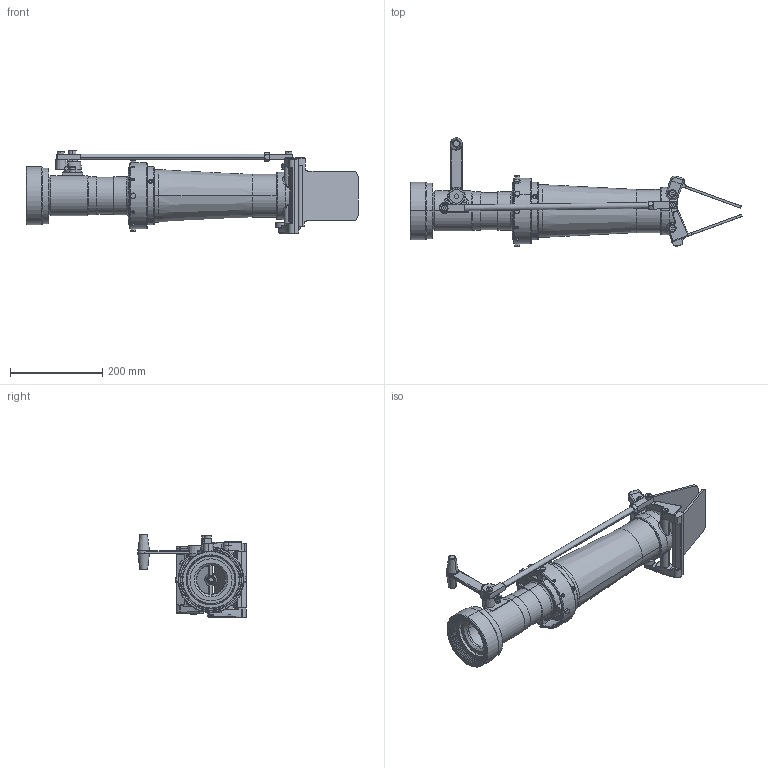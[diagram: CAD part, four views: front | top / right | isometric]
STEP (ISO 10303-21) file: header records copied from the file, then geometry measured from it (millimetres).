
FILE_DESCRIPTION((''),'2;1');
FILE_NAME('3_5_SWIVEL_SW0001','2012-11-29T',('jdetw'),(''),'PRO/ENGINEER BY PARAMETRIC TECHNOLOGY CORPORATION, 2011180','PRO/ENGINEER BY PARAMETRIC TECHNOLOGY CORPORATION, 2011180','');
FILE_SCHEMA(('CONFIG_CONTROL_DESIGN'));
Length unit declared in the file: inch
Products named in the file (1): 3_5_SWIVEL_SW0001
Bounding box: 719.97 x 234.96 x 181.61 mm (x, y, z)
Volume: 1642065.7 mm3; surface area: 655586.3 mm2
Topology: 2 solids, 2 shells, 1253 faces, 3116 edges, 1946 vertices
Faces by surface type: cylinder 444, plane 406, cone 177, bspline 140, torus 70, sphere 16
Entity records: 75659 total; most frequent: CARTESIAN_POINT 47209, ORIENTED_EDGE 6228, DIRECTION 5475, EDGE_CURVE 3114, AXIS2_PLACEMENT_3D 2140, VERTEX_POINT 1946, EDGE_LOOP 1394, FACE_OUTER_BOUND 1253
